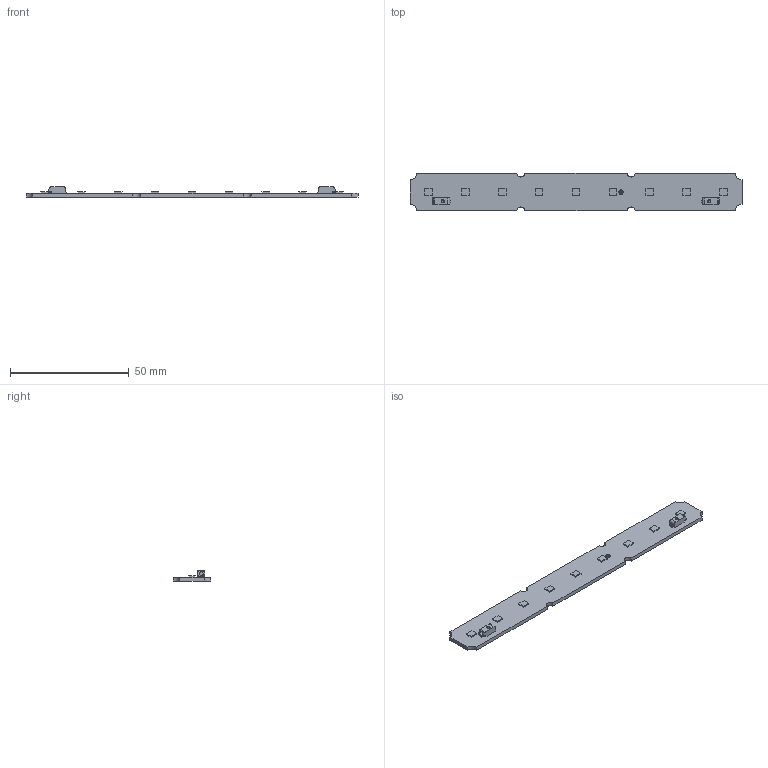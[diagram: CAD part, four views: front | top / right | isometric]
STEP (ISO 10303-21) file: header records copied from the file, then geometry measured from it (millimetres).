
FILE_DESCRIPTION((''),'2;1');
FILE_NAME('16208817_LLE-G5-16X140-325LM','2019-01-15T14:05:21',('bernhard.fink'),(''),'CREO PARAMETRIC BY PTC INC, 2017380','CREO PARAMETRIC BY PTC INC, 2017380','');
FILE_SCHEMA(('AUTOMOTIVE_DESIGN { 1 0 10303 214 1 1 1 1 }'));
Length unit declared in the file: millimetre
Products named in the file (1): 16208817_LLE-G5-16X140-325LM
Bounding box: 139.6 x 15.8 x 4.35 mm (x, y, z)
Volume: 3709.2 mm3; surface area: 5279.1 mm2
Topology: 10 solids, 10 shells, 183 faces, 458 edges, 304 vertices
Faces by surface type: plane 127, cylinder 52, torus 4
Entity records: 8709 total; most frequent: CARTESIAN_POINT 1079, ORIENTED_EDGE 916, DIRECTION 900, PRESENTATION_STYLE_ASSIGNMENT 651, STYLED_ITEM 468, CURVE_STYLE 458, EDGE_CURVE 458, VECTOR 338
